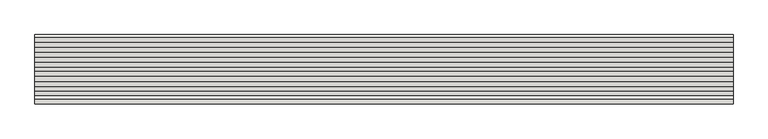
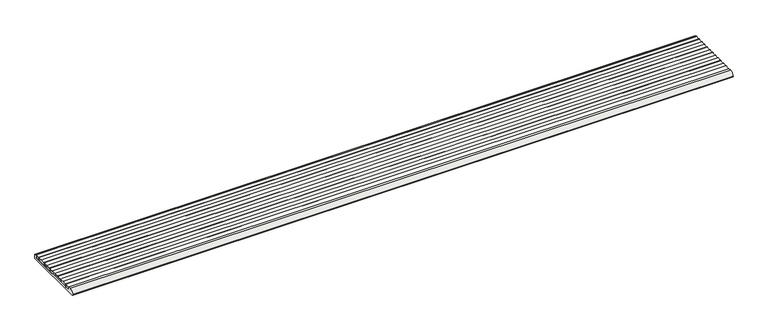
"""IFC4 building model written with IfcOpenShell, lengths in millimetres: slab geometry, ROSA GRES_003 : Pieza 003_Aqua_Marino_Anti-Slip."""

from ifc_helpers import new_model, si_unit, point, frame, frame_2d, origin, place, context, project, spatial, polyline, circle_curve, trimmed, segment, composite_curve, outline, extrude, source, transform, mapped, element, save


def slab_230d59c4(model_context):
    return source(origin(), model_context, "Body", "SweptSolid", [
        extrude(outline(composite_curve([segment(polyline([(7.6419163, 9.4971975), (13.1748183, 9.4971975), (13.1748183, 4.0921512), (114.6668888, 4.0921512), (114.6668888, 10.0184612)]), True, "CONTINUOUS"), segment(trimmed(circle_curve(frame_2d((118.9168888, 13.6516438)), 5.5912893), [point((114.6668888, 10.0184612))], [point((118.9168888, 8.0603545))], True, "CARTESIAN"), True, "CONTINUOUS"), segment(polyline([(118.9168888, 8.0603545), (118.9168888, 0.0), (1.8518481, 0.0), (0.5422562, 1.309592)]), True, "CONTINUOUS"), segment(trimmed(circle_curve(frame_2d((1.9104791, 2.6778148)), 1.9349594), [point((0.5422562, 1.309592))], [point((0.0, 2.9846331))], False, "CARTESIAN"), True, "CONTINUOUS"), segment(trimmed(circle_curve(frame_2d((7.6419163, 1.7573601)), 7.7398374), [point((0.0, 2.9846331))], [point((7.6419163, 9.4971975))], False, "CARTESIAN"), True, "CONTINUOUS")], self_intersect=False)), frame((0.0, 0.0, 0.0), z_axis=(1.0, 0.0, 0.0), x_axis=(0.0, 1.0, 0.0)), (0.0, 0.0, 1.0), 1200.0000072),
        extrude(outline(composite_curve([segment(trimmed(circle_curve(frame_2d((110.4168888, 13.6516438)), 5.5912893), [point((106.1668888, 10.0184612))], [point((114.6668888, 10.0184612))], True, "CARTESIAN"), True, "CONTINUOUS"), segment(polyline([(114.6668888, 10.0184612), (114.6668888, 4.0921512), (106.1668888, 4.0921512), (106.1668888, 10.0184612)]), True, "CONTINUOUS")], self_intersect=False)), frame((0.0, 0.0, 0.0), z_axis=(1.0, 0.0, 0.0), x_axis=(0.0, 1.0, 0.0)), (0.0, 0.0, 1.0), 1200.0000072),
        extrude(outline(polyline([(1200.0000072, 89.1668888), (1200.0000072, 72.1668888), (0.0, 72.1668888), (0.0, 89.1668888), (1200.0000072, 89.1668888)])), frame((0.0, 0.0, 4.0921512), z_axis=(0.0, 0.0, 1.0), x_axis=(1.0, 0.0, 0.0)), (0.0, 0.0, 1.0), 2.92631),
        extrude(outline(polyline([(1200.0000072, 55.1668888), (1200.0000072, 38.1668888), (0.0, 38.1668888), (0.0, 55.1668888), (1200.0000072, 55.1668888)])), frame((0.0, 0.0, 4.0921512), z_axis=(0.0, 0.0, 1.0), x_axis=(1.0, 0.0, 0.0)), (0.0, 0.0, 1.0), 2.92631),
        extrude(outline(composite_curve([segment(trimmed(circle_curve(frame_2d((16.9168888, 13.6516438)), 5.5912893), [point((13.1748183, 9.4971975))], [point((21.1668888, 10.0184612))], True, "CARTESIAN"), True, "CONTINUOUS"), segment(polyline([(21.1668888, 10.0184612), (21.1668888, 4.0921512), (13.1748183, 4.0921512), (13.1748183, 9.4971975)]), True, "CONTINUOUS")], self_intersect=False)), frame((0.0, 0.0, 0.0), z_axis=(1.0, 0.0, 0.0), x_axis=(0.0, 1.0, 0.0)), (0.0, 0.0, 1.0), 1200.0000072),
        extrude(outline(composite_curve([segment(trimmed(circle_curve(frame_2d((25.4168888, 13.6553338)), 5.5912893), [point((21.1668888, 10.0221512))], [point((29.6668888, 10.0221512))], True, "CARTESIAN"), True, "CONTINUOUS"), segment(trimmed(circle_curve(frame_2d((33.9168888, 13.6553338)), 5.5912893), [point((29.6668888, 10.0221512))], [point((38.1668888, 10.0221512))], True, "CARTESIAN"), True, "CONTINUOUS"), segment(trimmed(circle_curve(frame_2d((42.4168888, 13.6553338)), 5.5912893), [point((38.1668888, 10.0221512))], [point((46.6668888, 10.0221512))], True, "CARTESIAN"), True, "CONTINUOUS"), segment(trimmed(circle_curve(frame_2d((50.9168888, 13.6553338)), 5.5912893), [point((46.6668888, 10.0221512))], [point((55.1668888, 10.0221512))], True, "CARTESIAN"), True, "CONTINUOUS"), segment(trimmed(circle_curve(frame_2d((59.4168888, 13.6553338)), 5.5912893), [point((55.1668888, 10.0221512))], [point((63.6668888, 10.0221512))], True, "CARTESIAN"), True, "CONTINUOUS"), segment(trimmed(circle_curve(frame_2d((67.9168888, 13.6553338)), 5.5912893), [point((63.6668888, 10.0221512))], [point((72.1668888, 10.0221512))], True, "CARTESIAN"), True, "CONTINUOUS"), segment(trimmed(circle_curve(frame_2d((76.4168888, 13.6553338)), 5.5912893), [point((72.1668888, 10.0221512))], [point((80.6668888, 10.0221512))], True, "CARTESIAN"), True, "CONTINUOUS"), segment(trimmed(circle_curve(frame_2d((84.9168888, 13.6553338)), 5.5912893), [point((80.6668888, 10.0221512))], [point((89.1668888, 10.0221512))], True, "CARTESIAN"), True, "CONTINUOUS"), segment(trimmed(circle_curve(frame_2d((93.4168888, 13.6553338)), 5.5912893), [point((89.1668888, 10.0221512))], [point((97.6668888, 10.0221512))], True, "CARTESIAN"), True, "CONTINUOUS"), segment(trimmed(circle_curve(frame_2d((101.9168888, 13.6553338)), 5.5912893), [point((97.6668888, 10.0221512))], [point((106.1668888, 10.0221512))], True, "CARTESIAN"), True, "CONTINUOUS"), segment(polyline([(106.1668888, 10.0221512), (106.1668888, 4.0921512), (89.1668888, 4.0921512), (89.1668888, 7.0184612), (72.1668888, 7.0184612), (72.1668888, 4.0921512), (55.1668888, 4.0921512), (55.1668888, 7.0184612), (38.1668888, 7.0184612), (38.1668888, 4.0921512), (21.1668888, 4.0921512), (21.1668888, 10.0221512)]), True, "CONTINUOUS")], self_intersect=False)), frame((0.0, 0.0, 0.0), z_axis=(1.0, 0.0, 0.0), x_axis=(0.0, 1.0, 0.0)), (0.0, 0.0, 1.0), 1200.0000072),
    ])


if __name__ == "__main__":
    model = new_model("IFC4")
    model_context = context("Model", 3, world=origin())
    ifc_project = project(units=[si_unit("LENGTHUNIT", "METRE", prefix="MILLI")], contexts=[model_context])
    site = spatial("IfcSite", under=ifc_project)
    building = spatial("IfcBuilding", under=site)
    placement = place(None, origin())
    slab_shape = slab_230d59c4(model_context)
    element("IfcSlab", 1, ObjectType="ROSA GRES_003 : Pieza 003_Aqua_Marino_Anti-Slip", at=placement, inside=building, context=model_context, shape_type="MappedRepresentation", body=[
        mapped(slab_shape, transform((0.0, 0.0, 0.0), x_axis=(1.0, 0.0, 0.0), y_axis=(0.0, 1.0, 0.0), z_axis=(0.0, 0.0, 1.0))),
    ])
    save(model, "model.ifc")
